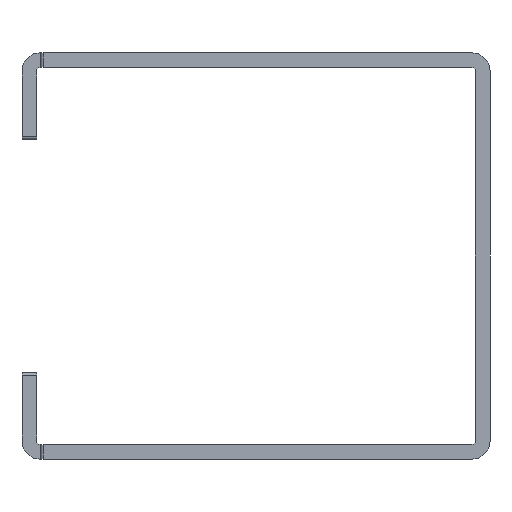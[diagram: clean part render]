
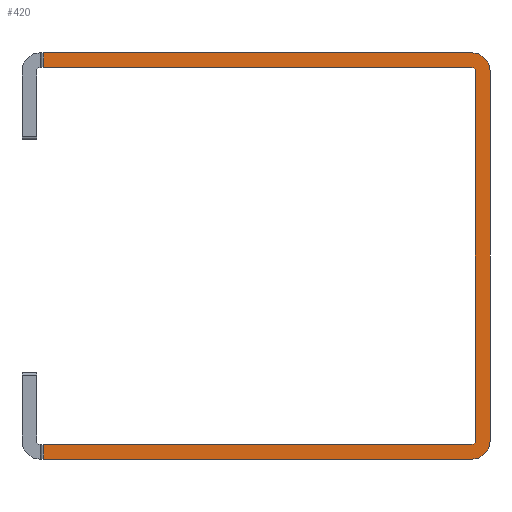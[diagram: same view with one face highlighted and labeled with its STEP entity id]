
A CAD part, front view. The second image highlights one B-rep face of the part: STEP entity #420.
In plain terms, the highlighted planar face has unit normal (0, -1, 0).
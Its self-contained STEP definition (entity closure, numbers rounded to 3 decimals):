
#108=CARTESIAN_POINT('',(1619.,2083.5,7.5));
#109=VERTEX_POINT('',#108);
#110=CARTESIAN_POINT('',(1501.,2083.5,7.5));
#111=VERTEX_POINT('',#110);
#112=CARTESIAN_POINT('',(1619.,2083.5,7.5));
#113=DIRECTION('',(-1.,0.,0.));
#114=VECTOR('',#113,118.);
#115=LINE('',#112,#114);
#116=EDGE_CURVE('',#109,#111,#115,.T.);
#272=CARTESIAN_POINT('',(1619.,2083.5,3.5));
#273=VERTEX_POINT('',#272);
#280=CARTESIAN_POINT('',(1501.,2083.5,3.5));
#281=VERTEX_POINT('',#280);
#282=CARTESIAN_POINT('',(1501.,2083.5,3.5));
#283=DIRECTION('',(1.,-0.,0.));
#284=VECTOR('',#283,118.);
#285=LINE('',#282,#284);
#286=EDGE_CURVE('',#281,#273,#285,.T.);
#331=CARTESIAN_POINT('',(2000.,2083.5,8316.5));
#332=DIRECTION('',(0.,1.,0.));
#333=DIRECTION('',(1.,-0.,0.));
#334=AXIS2_PLACEMENT_3D('',#331,#332,#333);
#335=PLANE('',#334);
#336=CARTESIAN_POINT('',(1619.,2083.5,-104.5));
#337=VERTEX_POINT('',#336);
#338=CARTESIAN_POINT('',(1501.,2083.5,-104.5));
#339=VERTEX_POINT('',#338);
#340=CARTESIAN_POINT('',(1619.,2083.5,-104.5));
#341=DIRECTION('',(-1.,0.,0.));
#342=VECTOR('',#341,118.);
#343=LINE('',#340,#342);
#344=EDGE_CURVE('',#337,#339,#343,.T.);
#345=ORIENTED_EDGE('',*,*,#344,.F.);
#346=CARTESIAN_POINT('',(1624.,2083.5,-99.5));
#347=VERTEX_POINT('',#346);
#348=CARTESIAN_POINT('',(1619.,2083.5,-99.5));
#349=DIRECTION('',(-0.,-1.,-0.));
#350=DIRECTION('',(-1.,0.,0.));
#351=AXIS2_PLACEMENT_3D('',#348,#349,#350);
#352=CIRCLE('',#351,5.);
#353=EDGE_CURVE('',#337,#347,#352,.T.);
#354=ORIENTED_EDGE('',*,*,#353,.T.);
#355=CARTESIAN_POINT('',(1624.,2083.5,2.5));
#356=VERTEX_POINT('',#355);
#357=CARTESIAN_POINT('',(1624.,2083.5,2.5));
#358=DIRECTION('',(0.,0.,-1.));
#359=VECTOR('',#358,102.);
#360=LINE('',#357,#359);
#361=EDGE_CURVE('',#356,#347,#360,.T.);
#362=ORIENTED_EDGE('',*,*,#361,.F.);
#363=CARTESIAN_POINT('',(1619.,2083.5,2.5));
#364=DIRECTION('',(-0.,-1.,-0.));
#365=DIRECTION('',(-1.,0.,0.));
#366=AXIS2_PLACEMENT_3D('',#363,#364,#365);
#367=CIRCLE('',#366,5.);
#368=EDGE_CURVE('',#356,#109,#367,.T.);
#369=ORIENTED_EDGE('',*,*,#368,.T.);
#370=ORIENTED_EDGE('',*,*,#116,.T.);
#371=CARTESIAN_POINT('',(1501.,2083.5,7.5));
#372=DIRECTION('',(-0.,0.,-1.));
#373=VECTOR('',#372,4.);
#374=LINE('',#371,#373);
#375=EDGE_CURVE('',#111,#281,#374,.T.);
#376=ORIENTED_EDGE('',*,*,#375,.T.);
#377=ORIENTED_EDGE('',*,*,#286,.T.);
#378=CARTESIAN_POINT('',(1620.,2083.5,2.5));
#379=VERTEX_POINT('',#378);
#380=CARTESIAN_POINT('',(1619.,2083.5,2.5));
#381=DIRECTION('',(0.,1.,0.));
#382=DIRECTION('',(-1.,0.,0.));
#383=AXIS2_PLACEMENT_3D('',#380,#381,#382);
#384=CIRCLE('',#383,1.);
#385=EDGE_CURVE('',#273,#379,#384,.T.);
#386=ORIENTED_EDGE('',*,*,#385,.T.);
#387=CARTESIAN_POINT('',(1620.,2083.5,-99.5));
#388=VERTEX_POINT('',#387);
#389=CARTESIAN_POINT('',(1620.,2083.5,-99.5));
#390=DIRECTION('',(-0.,-0.,1.));
#391=VECTOR('',#390,102.);
#392=LINE('',#389,#391);
#393=EDGE_CURVE('',#388,#379,#392,.T.);
#394=ORIENTED_EDGE('',*,*,#393,.F.);
#395=CARTESIAN_POINT('',(1619.,2083.5,-100.5));
#396=VERTEX_POINT('',#395);
#397=CARTESIAN_POINT('',(1619.,2083.5,-99.5));
#398=DIRECTION('',(0.,1.,0.));
#399=DIRECTION('',(-1.,0.,0.));
#400=AXIS2_PLACEMENT_3D('',#397,#398,#399);
#401=CIRCLE('',#400,1.);
#402=EDGE_CURVE('',#388,#396,#401,.T.);
#403=ORIENTED_EDGE('',*,*,#402,.T.);
#404=CARTESIAN_POINT('',(1501.,2083.5,-100.5));
#405=VERTEX_POINT('',#404);
#406=CARTESIAN_POINT('',(1501.,2083.5,-100.5));
#407=DIRECTION('',(1.,-0.,0.));
#408=VECTOR('',#407,118.);
#409=LINE('',#406,#408);
#410=EDGE_CURVE('',#405,#396,#409,.T.);
#411=ORIENTED_EDGE('',*,*,#410,.F.);
#412=CARTESIAN_POINT('',(1501.,2083.5,-100.5));
#413=DIRECTION('',(0.,0.,-1.));
#414=VECTOR('',#413,4.);
#415=LINE('',#412,#414);
#416=EDGE_CURVE('',#405,#339,#415,.T.);
#417=ORIENTED_EDGE('',*,*,#416,.T.);
#418=EDGE_LOOP('',(#345,#354,#362,#369,#370,#376,#377,#386,#394,#403,#411,#417));
#419=FACE_BOUND('',#418,.T.);
#420=ADVANCED_FACE('',(#419),#335,.F.);
